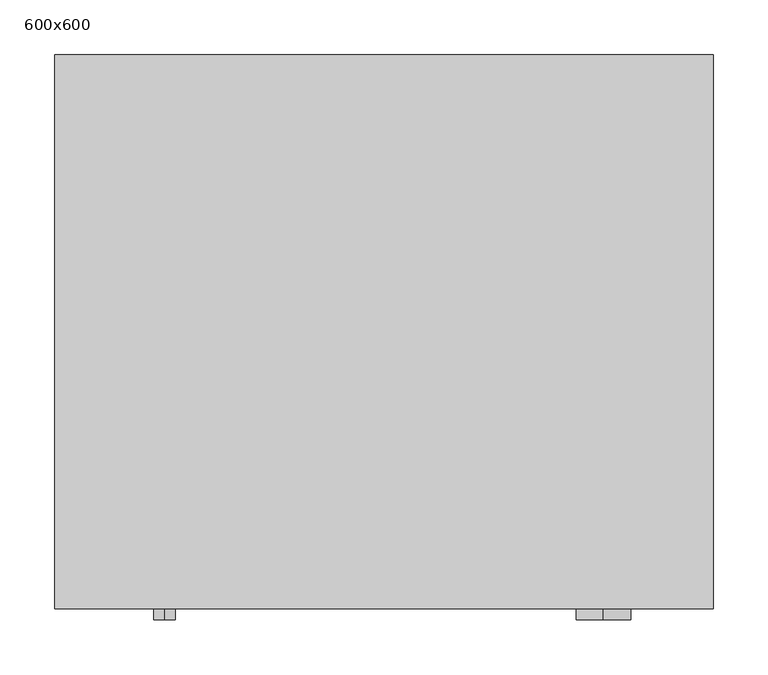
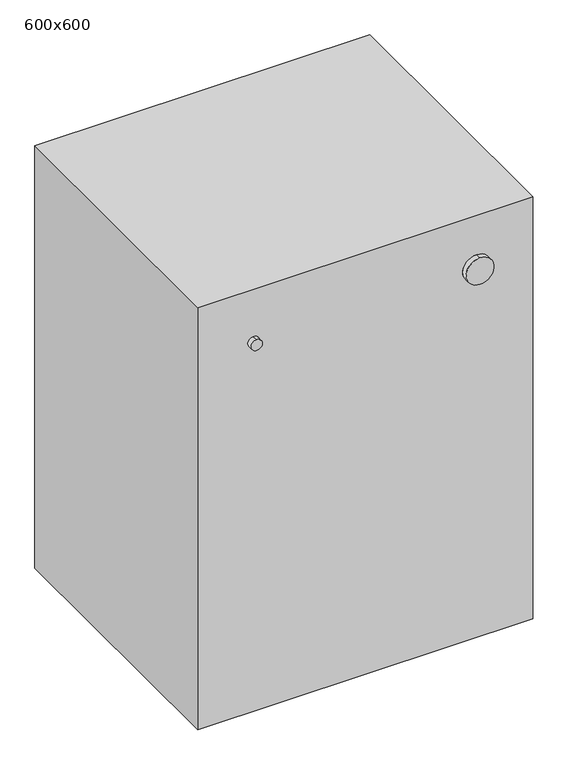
"""IFC4 building model written with IfcOpenShell, lengths in millimetres: flow terminal geometry, SP_стиральная машина_LEG : 600x600."""

from ifc_helpers import new_model, si_unit, frame, origin, place, context, project, spatial, circle_curve, source, transform, mapped, element, save
from ifc_brep_helpers import plane_surface, cylinder_surface, advanced_brep


def flow_terminal_600x600_852fcc23(model_context):
    return source(origin(), model_context, "Body", "AdvancedBrep", [
        advanced_brep(
        [(300.0, 600.0, 800.0), (-300.0, 600.0, 800.0), (-300.0, 95.0, 800.0), (300.0, 95.0, 800.0), (300.0, 600.0, 0.0), (300.0, 95.0, 0.0), (-300.0, 95.0, 0.0), (-300.0, 600.0, 0.0), (-200.0, 95.0, 710.0), (-200.0, 95.0, 690.0), (200.0, 95.0, 725.0), (200.0, 95.0, 675.0), (-200.0, 85.0, 690.0), (-200.0, 85.0, 710.0), (200.0, 85.0, 675.0), (200.0, 85.0, 725.0)],
        [
            (0, 1),
            (1, 2),
            (2, 3),
            (3, 0),
            (4, 5),
            (5, 6),
            (6, 7),
            (7, 4),
            (0, 4),
            (7, 1),
            (6, 2),
            (5, 3),
            (8, 9, circle_curve(frame((-200.0, 95.0, 700.0), z_axis=(0.0, 1.0, 0.0), x_axis=(0.0, 0.0, 1.0)), 10.0)),
            (9, 8, circle_curve(frame((-200.0, 95.0, 700.0), z_axis=(0.0, 1.0, 0.0), x_axis=(0.0, 0.0, 1.0)), 10.0)),
            (10, 11, circle_curve(frame((200.0, 95.0, 700.0), z_axis=(0.0, 1.0, 0.0), x_axis=(0.0, 0.0, 1.0)), 25.0)),
            (11, 10, circle_curve(frame((200.0, 95.0, 700.0), z_axis=(0.0, 1.0, 0.0), x_axis=(0.0, 0.0, 1.0)), 25.0)),
            (12, 13, circle_curve(frame((-200.0, 85.0, 700.0), z_axis=(0.0, -1.0, 0.0), x_axis=(0.0, 0.0, 1.0)), 10.0)),
            (13, 12, circle_curve(frame((-200.0, 85.0, 700.0), z_axis=(0.0, -1.0, 0.0), x_axis=(0.0, 0.0, 1.0)), 10.0)),
            (12, 9),
            (8, 13),
            (14, 15, circle_curve(frame((200.0, 85.0, 700.0), z_axis=(0.0, -1.0, 0.0), x_axis=(0.0, 0.0, 1.0)), 25.0)),
            (15, 14, circle_curve(frame((200.0, 85.0, 700.0), z_axis=(0.0, -1.0, 0.0), x_axis=(0.0, 0.0, 1.0)), 25.0)),
            (14, 11),
            (10, 15),
        ],
        [
            plane_surface(frame((-300.0, 600.0, 800.0), z_axis=(0.0, 0.0, 1.0), x_axis=(-1.0, 0.0, 0.0))),
            plane_surface(frame((-300.0, 600.0, 0.0), z_axis=(0.0, 0.0, -1.0), x_axis=(1.0, 0.0, 0.0))),
            plane_surface(frame((300.0, 600.0, 800.0), z_axis=(0.0, 1.0, 0.0), x_axis=(0.0, 0.0, -1.0))),
            plane_surface(frame((-300.0, 600.0, 800.0), z_axis=(-1.0, 0.0, 0.0), x_axis=(0.0, 0.0, -1.0))),
            plane_surface(frame((-300.0, 95.0, 800.0), z_axis=(0.0, -1.0, 0.0), x_axis=(0.0, 0.0, -1.0))),
            plane_surface(frame((300.0, 95.0, 800.0), z_axis=(1.0, 0.0, 0.0), x_axis=(0.0, 0.0, -1.0))),
            plane_surface(frame((-200.0, 85.0, 700.0), z_axis=(0.0, -1.0, 0.0), x_axis=(1.0, 0.0, 0.0))),
            cylinder_surface(frame((-200.0, 85.0, 700.0), z_axis=(0.0, -1.0, 0.0), x_axis=(0.0, 0.0, 1.0)), 10.0),
            plane_surface(frame((200.0, 85.0, 700.0), z_axis=(0.0, -1.0, 0.0), x_axis=(1.0, 0.0, 0.0))),
            cylinder_surface(frame((200.0, 85.0, 700.0), z_axis=(0.0, -1.0, 0.0), x_axis=(0.0, 0.0, 1.0)), 25.0),
        ],
        [
            (0, [[1, 2, 3, 4]]),
            (1, [[5, 6, 7, 8]]),
            (2, [[-1, 9, -8, 10]]),
            (3, [[-2, -10, -7, 11]]),
            (4, [[-3, -11, -6, 12], [13, 14], [15, 16]]),
            (5, [[-4, -12, -5, -9]]),
            (6, [[17, 18]]),
            (7, [[-17, 19, -13, 20]]),
            (7, [[-18, -20, -14, -19]]),
            (8, [[21, 22]]),
            (9, [[-21, 23, -15, 24]]),
            (9, [[-22, -24, -16, -23]]),
        ],
    ),
    ])


if __name__ == "__main__":
    model = new_model("IFC4")
    model_context = context("Model", 3, world=origin())
    ifc_project = project(units=[si_unit("LENGTHUNIT", "METRE", prefix="MILLI")], contexts=[model_context])
    site = spatial("IfcSite", under=ifc_project)
    building = spatial("IfcBuilding", under=site)
    placement = place(None, origin())
    flow_terminal_600x600_shape = flow_terminal_600x600_852fcc23(model_context)
    element("IfcFlowTerminal", 1, ObjectType="SP_стиральная машина_LEG : 600x600", at=placement, inside=building, context=model_context, shape_type="MappedRepresentation", body=[
        mapped(flow_terminal_600x600_shape, transform((0.0, 0.0, 0.0), x_axis=(1.0, 0.0, 0.0), y_axis=(0.0, 1.0, 0.0), z_axis=(0.0, 0.0, 1.0))),
    ])
    save(model, "model.ifc")
